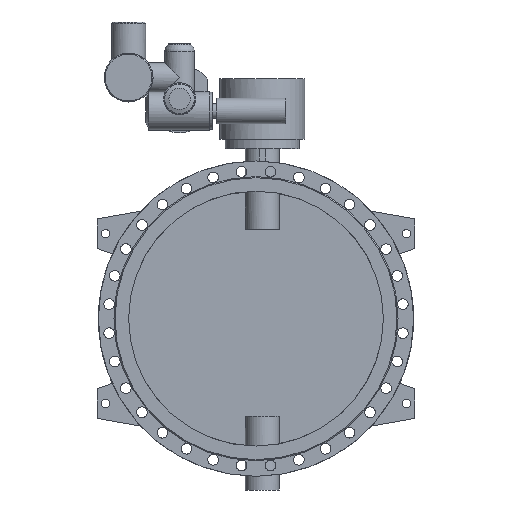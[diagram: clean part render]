
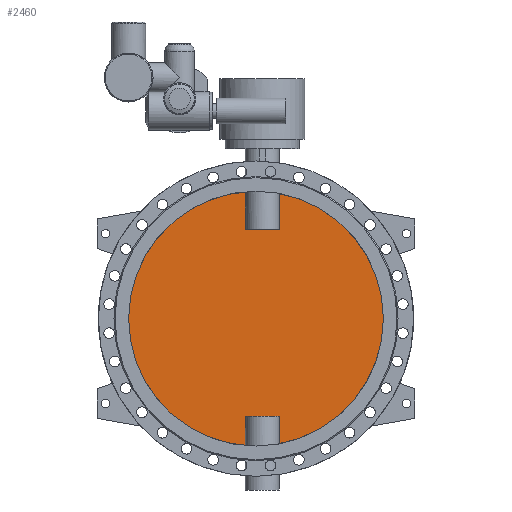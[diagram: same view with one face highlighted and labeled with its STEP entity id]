
A CAD part, front view. The second image highlights one B-rep face of the part: STEP entity #2460.
In plain terms, the highlighted planar face has unit normal (0, -1, 0).
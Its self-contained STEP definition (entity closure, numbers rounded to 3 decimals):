
#2460=ADVANCED_FACE('',(#5009),#5011,.F.);
#5009=FACE_BOUND('',#5010,.T.);
#5010=EDGE_LOOP('',(#6111,#6112,#6113,#6114,#6115,#6116,#6117,#6118));
#5011=PLANE('',#5012);
#5012=AXIS2_PLACEMENT_3D('',#5013,#5014,#5015);
#5013=CARTESIAN_POINT('',(0.,-5.,0.));
#5014=DIRECTION('',(0.,1.,0.));
#5015=DIRECTION('',(1.,0.,0.));
#6111=ORIENTED_EDGE('',*,*,#6663,.T.);
#6112=ORIENTED_EDGE('',*,*,#6668,.T.);
#6113=ORIENTED_EDGE('',*,*,#6669,.T.);
#6114=ORIENTED_EDGE('',*,*,#6670,.T.);
#6115=ORIENTED_EDGE('',*,*,#6665,.T.);
#6116=ORIENTED_EDGE('',*,*,#6671,.T.);
#6117=ORIENTED_EDGE('',*,*,#6672,.T.);
#6118=ORIENTED_EDGE('',*,*,#6673,.T.);
#6663=EDGE_CURVE('',#7641,#7642,#7643,.F.);
#6665=EDGE_CURVE('',#7646,#7644,#7647,.F.);
#6668=EDGE_CURVE('',#7642,#7651,#7652,.T.);
#6669=EDGE_CURVE('',#7651,#7653,#7654,.F.);
#6670=EDGE_CURVE('',#7653,#7646,#7655,.F.);
#6671=EDGE_CURVE('',#7644,#7656,#7657,.F.);
#6672=EDGE_CURVE('',#7656,#7658,#7659,.F.);
#6673=EDGE_CURVE('',#7658,#7641,#7660,.T.);
#7641=VERTEX_POINT('',#12014);
#7642=VERTEX_POINT('',#12015);
#7643=CIRCLE('',#12016,600.);
#7644=VERTEX_POINT('',#12020);
#7646=VERTEX_POINT('',#12114);
#7647=CIRCLE('',#12115,600.);
#7651=VERTEX_POINT('',#12218);
#7652=LINE('',#12219,#12220);
#7653=VERTEX_POINT('',#12222);
#7654=LINE('',#12223,#12224);
#7655=LINE('',#12226,#12227);
#7656=VERTEX_POINT('',#12229);
#7657=LINE('',#12230,#12231);
#7658=VERTEX_POINT('',#12233);
#7659=LINE('',#12234,#12235);
#7660=LINE('',#12237,#12238);
#12014=CARTESIAN_POINT('',(109.844,-5.,-589.86));
#12015=CARTESIAN_POINT('',(109.844,-5.,589.86));
#12016=AXIS2_PLACEMENT_3D('',#12017,#12018,#12019);
#12017=CARTESIAN_POINT('',(0.,-5.,0.));
#12018=DIRECTION('',(0.,1.,0.));
#12019=DIRECTION('',(0.183,0.,0.983));
#12020=CARTESIAN_POINT('',(-49.844,-5.,-597.926));
#12114=CARTESIAN_POINT('',(-49.844,-5.,597.926));
#12115=AXIS2_PLACEMENT_3D('',#12116,#12117,#12118);
#12116=CARTESIAN_POINT('',(0.,-5.,0.));
#12117=DIRECTION('',(0.,1.,0.));
#12118=DIRECTION('',(-0.083,0.,-0.997));
#12218=CARTESIAN_POINT('',(109.844,-5.,420.));
#12219=CARTESIAN_POINT('',(109.844,-5.,589.86));
#12220=VECTOR('',#12221,1.);
#12221=DIRECTION('',(0.,0.,-1.));
#12222=CARTESIAN_POINT('',(-49.844,-5.,420.));
#12223=CARTESIAN_POINT('',(-49.844,-5.,420.));
#12224=VECTOR('',#12225,1.);
#12225=DIRECTION('',(1.,0.,0.));
#12226=CARTESIAN_POINT('',(-49.844,-5.,597.926));
#12227=VECTOR('',#12228,1.);
#12228=DIRECTION('',(0.,0.,-1.));
#12229=CARTESIAN_POINT('',(-49.844,-5.,-460.));
#12230=CARTESIAN_POINT('',(-49.844,-5.,-460.));
#12231=VECTOR('',#12232,1.);
#12232=DIRECTION('',(0.,0.,-1.));
#12233=CARTESIAN_POINT('',(109.844,-5.,-460.));
#12234=CARTESIAN_POINT('',(109.844,-5.,-460.));
#12235=VECTOR('',#12236,1.);
#12236=DIRECTION('',(-1.,0.,0.));
#12237=CARTESIAN_POINT('',(109.844,-5.,-460.));
#12238=VECTOR('',#12239,1.);
#12239=DIRECTION('',(0.,0.,-1.));
